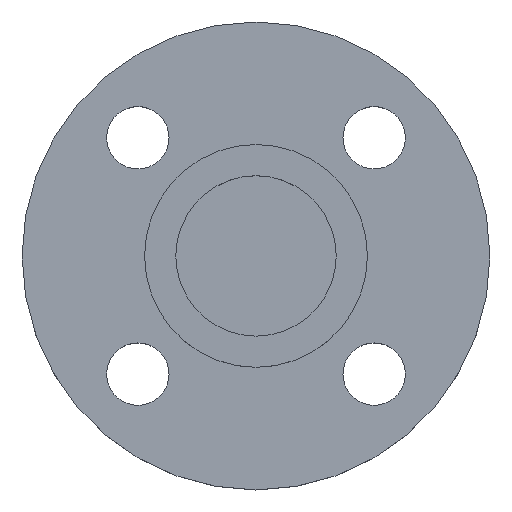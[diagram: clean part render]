
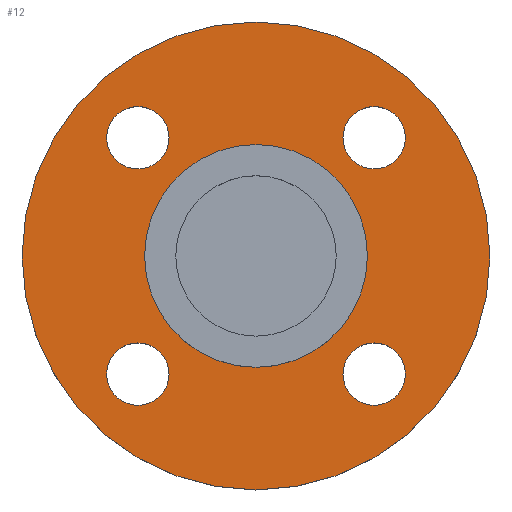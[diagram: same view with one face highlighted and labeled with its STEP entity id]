
A CAD part, top view. The second image highlights one B-rep face of the part: STEP entity #12.
In plain terms, the highlighted planar face has unit normal (0, 0, 1).
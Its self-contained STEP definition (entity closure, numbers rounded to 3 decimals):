
#7 = AXIS2_PLACEMENT_3D ( 'NONE', #559, #560, #558 ) ;
#12 = ADVANCED_FACE ( 'NONE', ( #606, #610, #611, #612, #614, #617 ), #618, .T. ) ;
#15 = CIRCLE ( 'NONE', #19, 25. ) ;
#17 = CIRCLE ( 'NONE', #61, 52.5 ) ;
#19 = AXIS2_PLACEMENT_3D ( 'NONE', #129, #131, #132 ) ;
#32 = EDGE_LOOP ( 'NONE', ( #714, #716 ) ) ;
#54 = EDGE_CURVE ( 'NONE', #79, #343, #17, .T. ) ;
#55 = VERTEX_POINT ( 'NONE', #653 ) ;
#61 = AXIS2_PLACEMENT_3D ( 'NONE', #650, #651, #652 ) ;
#79 = VERTEX_POINT ( 'NONE', #661 ) ;
#81 = DIRECTION ( 'NONE',  ( 0., 0., -1. ) ) ;
#93 = EDGE_CURVE ( 'NONE', #352, #55, #727, .T. ) ;
#129 = CARTESIAN_POINT ( 'NONE',  ( 0., 0., -4.5 ) ) ;
#131 = DIRECTION ( 'NONE',  ( 0., 0., -1. ) ) ;
#132 = DIRECTION ( 'NONE',  ( -1., 0., 0. ) ) ;
#149 = AXIS2_PLACEMENT_3D ( 'NONE', #556, #533, #553 ) ;
#156 = AXIS2_PLACEMENT_3D ( 'NONE', #583, #543, #542 ) ;
#159 = CIRCLE ( 'NONE', #156, 7. ) ;
#166 = CARTESIAN_POINT ( 'NONE',  ( 0., 0., -4.5 ) ) ;
#170 = DIRECTION ( 'NONE',  ( 0., 0., -1. ) ) ;
#171 = DIRECTION ( 'NONE',  ( -1., 0., 0. ) ) ;
#175 = AXIS2_PLACEMENT_3D ( 'NONE', #484, #482, #481 ) ;
#198 = CARTESIAN_POINT ( 'NONE',  ( -26.517, 26.517, -4.5 ) ) ;
#199 = DIRECTION ( 'NONE',  ( 0., 0., -1. ) ) ;
#201 = DIRECTION ( 'NONE',  ( 1., 0., 0. ) ) ;
#205 = CARTESIAN_POINT ( 'NONE',  ( 52.5, 0., -4.5 ) ) ;
#206 = AXIS2_PLACEMENT_3D ( 'NONE', #572, #214, #571 ) ;
#214 = DIRECTION ( 'NONE',  ( 0., 0., -1. ) ) ;
#217 = AXIS2_PLACEMENT_3D ( 'NONE', #619, #620, #621 ) ;
#218 = CIRCLE ( 'NONE', #175, 7. ) ;
#221 = CARTESIAN_POINT ( 'NONE',  ( 19.517, 26.517, -4.5 ) ) ;
#231 = CARTESIAN_POINT ( 'NONE',  ( 33.517, -26.517, -4.5 ) ) ;
#235 = CARTESIAN_POINT ( 'NONE',  ( -25., 0., -4.5 ) ) ;
#237 = EDGE_CURVE ( 'NONE', #367, #353, #15, .T. ) ;
#253 = CARTESIAN_POINT ( 'NONE',  ( 25., 0., -4.5 ) ) ;
#258 = CARTESIAN_POINT ( 'NONE',  ( -33.517, -26.517, -4.5 ) ) ;
#265 = CIRCLE ( 'NONE', #322, 7. ) ;
#270 = CARTESIAN_POINT ( 'NONE',  ( -33.517, 26.517, -4.5 ) ) ;
#271 = CARTESIAN_POINT ( 'NONE',  ( -19.517, 26.517, -4.5 ) ) ;
#275 = CARTESIAN_POINT ( 'NONE',  ( -19.517, -26.517, -4.5 ) ) ;
#284 = EDGE_CURVE ( 'NONE', #343, #79, #296, .T. ) ;
#291 = AXIS2_PLACEMENT_3D ( 'NONE', #198, #199, #201 ) ;
#296 = CIRCLE ( 'NONE', #690, 52.5 ) ;
#307 = DIRECTION ( 'NONE',  ( 1., 0., 0. ) ) ;
#308 = EDGE_CURVE ( 'NONE', #393, #392, #422, .T. ) ;
#322 = AXIS2_PLACEMENT_3D ( 'NONE', #487, #486, #485 ) ;
#338 = EDGE_LOOP ( 'NONE', ( #712, #713 ) ) ;
#340 = CARTESIAN_POINT ( 'NONE',  ( -26.517, -26.517, -4.5 ) ) ;
#343 = VERTEX_POINT ( 'NONE', #205 ) ;
#346 = CIRCLE ( 'NONE', #149, 25. ) ;
#351 = VERTEX_POINT ( 'NONE', #221 ) ;
#352 = VERTEX_POINT ( 'NONE', #231 ) ;
#353 = VERTEX_POINT ( 'NONE', #235 ) ;
#356 = EDGE_LOOP ( 'NONE', ( #709, #711 ) ) ;
#364 = CIRCLE ( 'NONE', #7, 7. ) ;
#367 = VERTEX_POINT ( 'NONE', #253 ) ;
#374 = VERTEX_POINT ( 'NONE', #258 ) ;
#387 = EDGE_LOOP ( 'NONE', ( #717, #718 ) ) ;
#392 = VERTEX_POINT ( 'NONE', #270 ) ;
#393 = VERTEX_POINT ( 'NONE', #271 ) ;
#402 = VERTEX_POINT ( 'NONE', #275 ) ;
#422 = CIRCLE ( 'NONE', #291, 7. ) ;
#445 = EDGE_CURVE ( 'NONE', #402, #374, #596, .T. ) ;
#464 = EDGE_CURVE ( 'NONE', #392, #393, #607, .T. ) ;
#470 = EDGE_CURVE ( 'NONE', #374, #402, #364, .T. ) ;
#480 = EDGE_CURVE ( 'NONE', #353, #367, #346, .T. ) ;
#481 = DIRECTION ( 'NONE',  ( 1., 0., 0. ) ) ;
#482 = DIRECTION ( 'NONE',  ( 0., 0., -1. ) ) ;
#484 = CARTESIAN_POINT ( 'NONE',  ( 26.517, 26.517, -4.5 ) ) ;
#485 = DIRECTION ( 'NONE',  ( 1., 0., 0. ) ) ;
#486 = DIRECTION ( 'NONE',  ( 0., 0., -1. ) ) ;
#487 = CARTESIAN_POINT ( 'NONE',  ( 26.517, 26.517, -4.5 ) ) ;
#506 = CARTESIAN_POINT ( 'NONE',  ( 33.517, 26.517, -4.5 ) ) ;
#509 = EDGE_CURVE ( 'NONE', #55, #352, #159, .T. ) ;
#533 = DIRECTION ( 'NONE',  ( 0., 0., -1. ) ) ;
#542 = DIRECTION ( 'NONE',  ( 1., 0., 0. ) ) ;
#543 = DIRECTION ( 'NONE',  ( 0., 0., -1. ) ) ;
#547 = VERTEX_POINT ( 'NONE', #506 ) ;
#553 = DIRECTION ( 'NONE',  ( -1., 0., 0. ) ) ;
#556 = CARTESIAN_POINT ( 'NONE',  ( 0., 0., -4.5 ) ) ;
#558 = DIRECTION ( 'NONE',  ( 1., 0., 0. ) ) ;
#559 = CARTESIAN_POINT ( 'NONE',  ( -26.517, -26.517, -4.5 ) ) ;
#560 = DIRECTION ( 'NONE',  ( 0., 0., -1. ) ) ;
#571 = DIRECTION ( 'NONE',  ( 1., 0., 0. ) ) ;
#572 = CARTESIAN_POINT ( 'NONE',  ( -26.517, 26.517, -4.5 ) ) ;
#582 = EDGE_LOOP ( 'NONE', ( #633, #700 ) ) ;
#583 = CARTESIAN_POINT ( 'NONE',  ( 26.517, -26.517, -4.5 ) ) ;
#586 = EDGE_LOOP ( 'NONE', ( #703, #707 ) ) ;
#596 = CIRCLE ( 'NONE', #701, 7. ) ;
#601 = EDGE_CURVE ( 'NONE', #547, #351, #265, .T. ) ;
#606 = FACE_BOUND ( 'NONE', #582, .T. ) ;
#607 = CIRCLE ( 'NONE', #206, 7. ) ;
#608 = EDGE_CURVE ( 'NONE', #351, #547, #218, .T. ) ;
#610 = FACE_BOUND ( 'NONE', #586, .T. ) ;
#611 = FACE_BOUND ( 'NONE', #356, .T. ) ;
#612 = FACE_BOUND ( 'NONE', #338, .T. ) ;
#614 = FACE_BOUND ( 'NONE', #32, .T. ) ;
#617 = FACE_OUTER_BOUND ( 'NONE', #387, .T. ) ;
#618 = PLANE ( 'NONE',  #217 ) ;
#619 = CARTESIAN_POINT ( 'NONE',  ( 25., 0., -4.5 ) ) ;
#620 = DIRECTION ( 'NONE',  ( 0., 0., 1. ) ) ;
#621 = DIRECTION ( 'NONE',  ( 1., 0., 0. ) ) ;
#633 = ORIENTED_EDGE ( 'NONE', *, *, #93, .T. ) ;
#650 = CARTESIAN_POINT ( 'NONE',  ( 0., 0., -4.5 ) ) ;
#651 = DIRECTION ( 'NONE',  ( 0., 0., -1. ) ) ;
#652 = DIRECTION ( 'NONE',  ( -1., 0., 0. ) ) ;
#653 = CARTESIAN_POINT ( 'NONE',  ( 19.517, -26.517, -4.5 ) ) ;
#661 = CARTESIAN_POINT ( 'NONE',  ( -52.5, 0., -4.5 ) ) ;
#662 = CARTESIAN_POINT ( 'NONE',  ( 26.517, -26.517, -4.5 ) ) ;
#663 = DIRECTION ( 'NONE',  ( 0., 0., -1. ) ) ;
#664 = DIRECTION ( 'NONE',  ( 1., 0., 0. ) ) ;
#690 = AXIS2_PLACEMENT_3D ( 'NONE', #166, #170, #171 ) ;
#700 = ORIENTED_EDGE ( 'NONE', *, *, #509, .T. ) ;
#701 = AXIS2_PLACEMENT_3D ( 'NONE', #340, #81, #307 ) ;
#703 = ORIENTED_EDGE ( 'NONE', *, *, #445, .T. ) ;
#707 = ORIENTED_EDGE ( 'NONE', *, *, #470, .T. ) ;
#709 = ORIENTED_EDGE ( 'NONE', *, *, #308, .T. ) ;
#710 = AXIS2_PLACEMENT_3D ( 'NONE', #662, #663, #664 ) ;
#711 = ORIENTED_EDGE ( 'NONE', *, *, #464, .T. ) ;
#712 = ORIENTED_EDGE ( 'NONE', *, *, #601, .T. ) ;
#713 = ORIENTED_EDGE ( 'NONE', *, *, #608, .T. ) ;
#714 = ORIENTED_EDGE ( 'NONE', *, *, #480, .T. ) ;
#716 = ORIENTED_EDGE ( 'NONE', *, *, #237, .T. ) ;
#717 = ORIENTED_EDGE ( 'NONE', *, *, #284, .F. ) ;
#718 = ORIENTED_EDGE ( 'NONE', *, *, #54, .F. ) ;
#727 = CIRCLE ( 'NONE', #710, 7. ) ;
